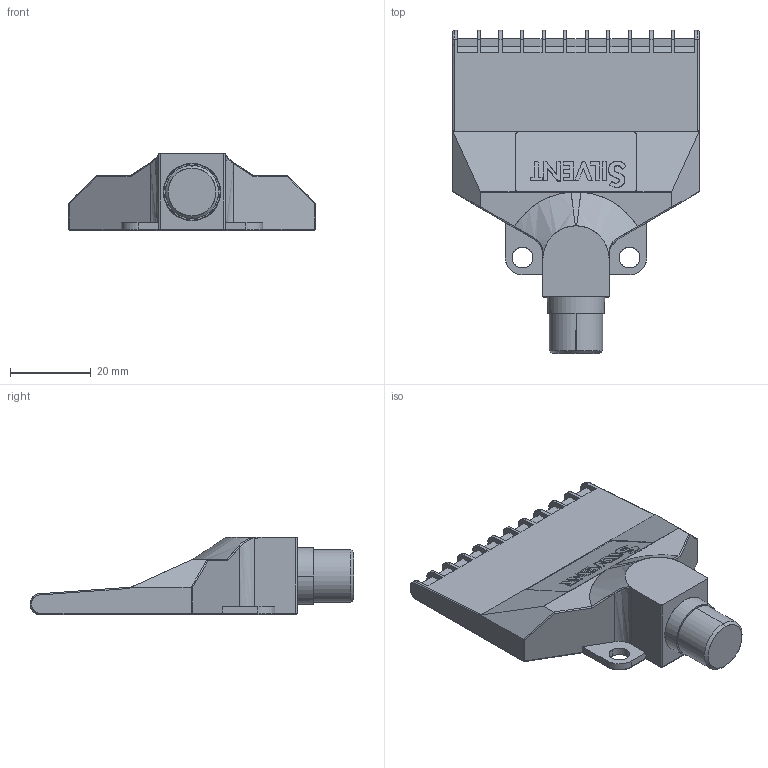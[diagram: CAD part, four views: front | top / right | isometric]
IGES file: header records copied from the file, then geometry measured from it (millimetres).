
Start section: SolidWorks IGES FILE using analytic representation for surfaces
Global section: file name: G:\Silvent\Ritningar\Övrigt\IGES\Silvent 973.IGS; native system: SolidWorks 2003 by SolidWorks Corporation; preprocessor: Version 5.3; author: Ulf; date: 030923.135825; units: millimetre
Bounding box: 61 x 80 x 19.1 mm (x, y, z)
Surface area: 9710.3 mm2 (no closed solid volume)
Topology: 0 solids, 0 shells, 305 faces, 2574 edges, 2572 vertices
Faces by surface type: bspline 173, revolution 132
